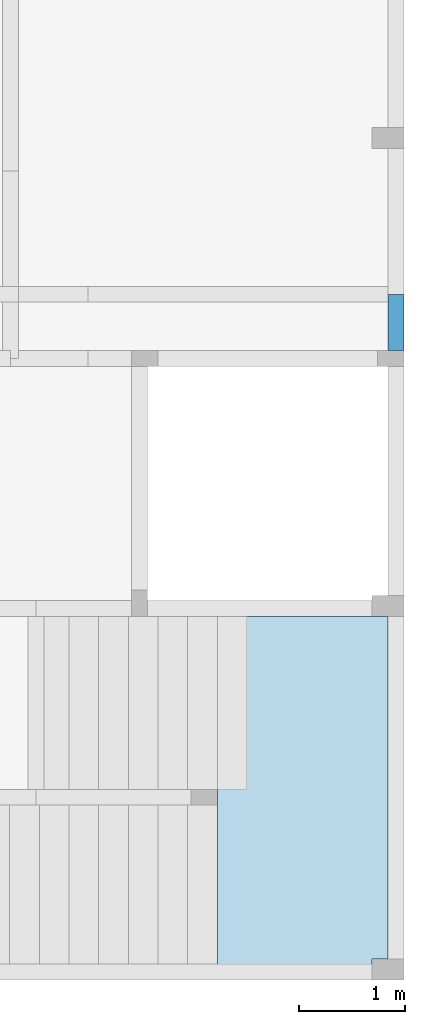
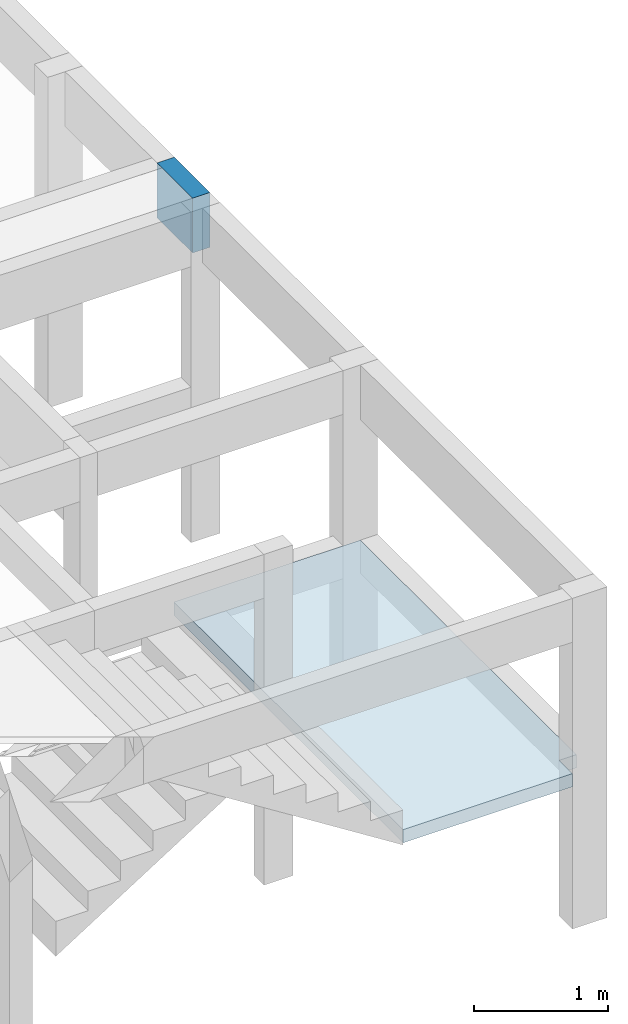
# One storey, part 7 of 21: 1 beam, 1 slab.
"""IFC4 building model written with IfcOpenShell, lengths in centimetres."""

import ifcopenshell
import ifcopenshell.guid

model = None  # the IFC model being written
_history = None  # IfcOwnerHistory: only IFC2X3 demands one
_inside = {}  # id of a spatial element -> (the spatial element, [elements in it])
_under = {}  # id of a project, library or spatial element -> (it, [spatial elements below it])
_declared = {}  # id of a project -> (the project, [libraries it declares])
_typed = {}  # id of a type object -> (the type object, [elements of that type])
_made_of = {}  # id of a material, layer set ... -> (it, [elements and type objects made of it])


def new_model(schema):
    """Start an empty IFC model of exactly this schema.

    Asked for "IFC4X3", IfcOpenShell would pick the latest addendum, in which some entities
    have other attributes; the version numbers below select the first issue.
    IFC2X3 requires an IfcOwnerHistory on every rooted entity: one is made here for all.
    """
    global model, _history
    if schema == "IFC4X3":
        model = ifcopenshell.file(schema_version=(4, 3, 0, 0))
    else:
        model = ifcopenshell.file(schema=schema)
    _inside.clear()
    _under.clear()
    _declared.clear()
    _typed.clear()
    _made_of.clear()
    _history = None
    if model.schema == "IFC2X3":
        org = make("IfcOrganization", Name="unknown")
        user = make(
            "IfcPersonAndOrganization",
            ThePerson=make("IfcPerson", FamilyName="unknown"),
            TheOrganization=org,
        )
        app = make(
            "IfcApplication",
            ApplicationDeveloper=org,
            Version="unknown",
            ApplicationFullName="unknown",
            ApplicationIdentifier="unknown",
        )
        _history = make(
            "IfcOwnerHistory",
            OwningUser=user,
            OwningApplication=app,
            ChangeAction="ADDED",
            CreationDate=0,
        )
    return model


def make(cls, **values):
    """One entity of the class cls with the attributes given. An attribute that is None is left unset."""
    return model.create_entity(
        cls, **{name: value for name, value in values.items() if value is not None}
    )


def rooted(cls, **values):
    """An entity with a GlobalId (a new one), such as an element, a storey or a relation."""
    return make(cls, GlobalId=ifcopenshell.guid.new(), OwnerHistory=_history, **values)


def si_unit(unit_type, name, prefix=None):
    """IfcSIUnit, for example si_unit("LENGTHUNIT", "METRE", prefix="MILLI")."""
    return make("IfcSIUnit", UnitType=unit_type, Prefix=prefix, Name=name)


def derived_unit(unit_type, elements):
    """IfcDerivedUnit: a product of units, each with its exponent."""
    return make(
        "IfcDerivedUnit",
        Elements=[
            make("IfcDerivedUnitElement", Unit=unit, Exponent=power)
            for unit, power in elements
        ],
        UnitType=unit_type,
    )


def assignment(units):
    """IfcUnitAssignment: the units of a project."""
    return None if units is None else make("IfcUnitAssignment", Units=units)


def point(xyz):
    """IfcCartesianPoint."""
    return None if xyz is None else make("IfcCartesianPoint", Coordinates=xyz)


def direction(xyz):
    """IfcDirection."""
    return None if xyz is None else make("IfcDirection", DirectionRatios=xyz)


def frame(location, z_axis=None, x_axis=None):
    """IfcAxis2Placement3D, a coordinate frame: its origin and axes. An axis left out is left unset."""
    return make(
        "IfcAxis2Placement3D",
        Location=point(location),
        Axis=direction(z_axis),
        RefDirection=direction(x_axis),
    )


def frame_2d(location, x_axis=None):
    """IfcAxis2Placement2D, a coordinate frame in the plane: its origin and x axis."""
    return make(
        "IfcAxis2Placement2D", Location=point(location), RefDirection=direction(x_axis)
    )


def origin_with_axes():
    """The frame at (0, 0, 0) with the z axis (0, 0, 1) and the x axis (1, 0, 0) written out."""
    return frame((0.0, 0.0, 0.0), z_axis=(0.0, 0.0, 1.0), x_axis=(1.0, 0.0, 0.0))


def origin_2d_with_axis():
    """The frame at (0, 0) in the plane with the x axis (1, 0) written out."""
    return frame_2d((0.0, 0.0), x_axis=(1.0, 0.0))


def place(relative_to, where):
    """IfcLocalPlacement: puts the frame where relative to a parent placement (None: the world)."""
    return make(
        "IfcLocalPlacement", PlacementRelTo=relative_to, RelativePlacement=where
    )


def context(
    kind, dimensions, precision=None, world=None, true_north=None, identifier=None
):
    """IfcGeometricRepresentationContext, for example the 3D "Model" context."""
    return make(
        "IfcGeometricRepresentationContext",
        ContextIdentifier=identifier,
        ContextType=kind,
        CoordinateSpaceDimension=dimensions,
        Precision=precision,
        WorldCoordinateSystem=world,
        TrueNorth=true_north,
    )


def project(units=None, contexts=None):
    """IfcProject with its units and contexts."""
    return rooted(
        "IfcProject",
        Name="project",
        RepresentationContexts=contexts,
        UnitsInContext=assignment(units),
    )


def spatial(cls, under=None, at=None, **own):
    """A site, building, storey or space (cls), placed at a placement, below another one or the project."""
    s = rooted(cls, ObjectPlacement=at, **own)
    if under is not None:
        _under.setdefault(under.id(), (under, []))[1].append(s)
    return s


def polyline(points):
    """IfcPolyline through the points."""
    return make("IfcPolyline", Points=[point(p) for p in points])


def profile(cls, at=None, kind="AREA", **sizes):
    """A parametric profile (cls). Its sizes go by their IFC names, for example OverallWidth=200.0."""
    return make(cls, ProfileType=kind, Position=at, **sizes)


def rectangle(**sizes):
    """IfcRectangleProfileDef."""
    return profile("IfcRectangleProfileDef", **sizes)


def outline(outer, holes=None, kind="AREA"):
    """IfcArbitraryClosedProfileDef: a profile drawn as a closed curve; with holes, ...WithVoids."""
    if holes is None:
        return make("IfcArbitraryClosedProfileDef", ProfileType=kind, OuterCurve=outer)
    return make(
        "IfcArbitraryProfileDefWithVoids",
        ProfileType=kind,
        OuterCurve=outer,
        InnerCurves=holes,
    )


def extrude(swept, where, along, depth):
    """IfcExtrudedAreaSolid: the profile swept, set in the frame where, extruded along a direction by depth."""
    return make(
        "IfcExtrudedAreaSolid",
        SweptArea=swept,
        Position=where,
        ExtrudedDirection=direction(along),
        Depth=depth,
    )


def shape(context_of_items, identifier, shape_type, items):
    """IfcShapeRepresentation: the items that make up one representation, for example the "Body"."""
    return make(
        "IfcShapeRepresentation",
        ContextOfItems=context_of_items,
        RepresentationIdentifier=identifier,
        RepresentationType=shape_type,
        Items=items,
    )


def material(Name=None, Category=None):
    """IfcMaterial."""
    return make("IfcMaterial", Name=Name, Category=Category)


def made_of(thing, what):
    """Note that an element or type object is made of a material, layer set ...; save() writes the relation."""
    if what is not None:
        _made_of.setdefault(what.id(), (what, []))[1].append(thing)
    return thing


def element(
    cls,
    number,
    at=None,
    inside=None,
    cuts=None,
    type_object=None,
    material=None,
    context=None,
    identifier="Body",
    shape_type=None,
    held_by="IfcProductDefinitionShape",
    body=None,
    shapes=None,
    **own,
):
    """One element of the class cls, such as IfcWall. Its Tag is "e" and its number.

    at: its placement. inside: the storey or other place that contains it. cuts: it is an
    opening in that element (IfcRelVoidsElement). A single representation is given by context,
    identifier, shape_type and body (its items); several are given by shapes. held_by: the class
    of the entity that holds the representations. save() writes the other relations.
    """
    e = rooted(cls, Tag="e%d" % number, ObjectPlacement=at, **own)
    if body is not None:
        shapes = [shape(context, identifier, shape_type, body)]
    if shapes is not None:
        e.Representation = make(held_by, Representations=shapes)
    if inside is not None:
        _inside.setdefault(inside.id(), (inside, []))[1].append(e)
    if cuts is not None:
        rooted(
            "IfcRelVoidsElement", RelatingBuildingElement=cuts, RelatedOpeningElement=e
        )
    if type_object is not None:
        _typed.setdefault(type_object.id(), (type_object, []))[1].append(e)
    return made_of(e, material)


def aggregate(whole, parts):
    """IfcRelAggregates: a whole, such as a stair, and the parts it consists of."""
    return rooted("IfcRelAggregates", RelatingObject=whole, RelatedObjects=parts)


def save(model, path):
    """Write the relations noted so far, then the file.

    IfcRelAggregates (storeys below a building ...), IfcRelContainedInSpatialStructure (elements
    in a storey), IfcRelDefinesByType, IfcRelAssociatesMaterial and IfcRelDeclares: one each for
    every whole, place, type object, material and project.
    """
    for whole, parts in _under.values():
        aggregate(whole, parts)
    for where, things in _inside.values():
        rooted(
            "IfcRelContainedInSpatialStructure",
            RelatedElements=things,
            RelatingStructure=where,
        )
    for kind, things in _typed.values():
        rooted("IfcRelDefinesByType", RelatedObjects=things, RelatingType=kind)
    for what, things in _made_of.values():
        rooted("IfcRelAssociatesMaterial", RelatedObjects=things, RelatingMaterial=what)
    for by, libraries in _declared.values():
        rooted("IfcRelDeclares", RelatingContext=by, RelatedDefinitions=libraries)
    model.write(path)


model = new_model("IFC4")

# Units and contexts
model_context = context("Model", 3, precision=1e-05, world=origin_with_axes(), identifier="Body")
ifc_project = project(units=[si_unit("LENGTHUNIT", "METRE", prefix="CENTI"), si_unit("VOLUMEUNIT", "CUBIC_METRE"), si_unit("AREAUNIT", "SQUARE_METRE"), si_unit("POWERUNIT", "WATT"), si_unit("LUMINOUSFLUXUNIT", "LUMEN"), si_unit("ELECTRICCURRENTUNIT", "AMPERE"), si_unit("PRESSUREUNIT", "PASCAL", prefix="KILO"), si_unit("MASSUNIT", "GRAM", prefix="KILO"), si_unit("PLANEANGLEUNIT", "RADIAN"), derived_unit("VOLUMETRICFLOWRATEUNIT", [(si_unit("LENGTHUNIT", "METRE"), 3), (si_unit("TIMEUNIT", "SECOND"), -1)])], contexts=[model_context])

# Site, building, storey
site_placement = place(None, origin_with_axes())
site = spatial("IfcSite", under=ifc_project, at=site_placement)
building_placement = place(site_placement, frame((0.0, 0.0, -295.0)))
building = spatial("IfcBuilding", under=site, at=building_placement)
placement_1 = place(building_placement, origin_with_axes())
placement_2 = place(placement_1, frame((0.0, 0.0, 101.0), z_axis=(0.0, 0.0, 1.0), x_axis=(1.0, 0.0, 0.0)))
placement_3 = place(placement_2, frame((0.0, 0.0, 204.0), z_axis=(0.0, 0.0, 1.0), x_axis=(1.0, 0.0, 0.0)))
placement_4 = place(placement_3, frame((0.0, 0.0, 292.0), z_axis=(0.0, 0.0, 1.0), x_axis=(1.0, 0.0, 0.0)))
storey_placement = place(placement_4, frame((0.0, 0.0, 302.0), z_axis=(0.0, 0.0, 1.0), x_axis=(1.0, 0.0, 0.0)))
storey = spatial("IfcBuildingStorey", under=building, at=storey_placement, Name="PAVTO 02", CompositionType="ELEMENT", Elevation=604.0)

# Beam
ifc_material = material(Name="Concreto")
beam_placement = place(storey_placement, frame((4009.25, -6558.68, 0.0), z_axis=(0.0, 0.0, 1.0), x_axis=(1.0, 0.0, 0.0)))
element("IfcBeam", 1, at=beam_placement, inside=storey, material=ifc_material, Name="V266", context=model_context, shape_type="SolidModel", body=[
    extrude(rectangle(XDim=15.0, YDim=50.0, at=origin_2d_with_axis()), frame((0.0, -26.63, -25.0), z_axis=(0.0, 1.0, 0.0), x_axis=(1.0, 0.0, 0.0)), (0.0, 0.0, 1.0), 53.26),
])

# Slab
slab_placement = place(storey_placement, frame((3921.175, -7007.8, -160.0), z_axis=(0.0, 0.0, 1.0), x_axis=(1.0, 0.0, 0.0)))
element("IfcSlab", 2, at=slab_placement, inside=storey, material=ifc_material, Name="PAT 1", PredefinedType="LANDING", context=model_context, shape_type="SolidModel", body=[
    extrude(outline(polyline([(65.58504558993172, -151.51), (80.58404558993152, -151.51), (80.5750455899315, 171.51), (-80.5839544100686, 171.51), (-80.5839544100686, -171.51), (65.58504558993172, -171.51), (65.58504558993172, -151.51), (65.58504558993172, -151.51)])), frame((-4.5589931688e-05, 0.0, -12.0), z_axis=(0.0, 0.0, 1.0), x_axis=(1.0, 0.0, 0.0)), (0.0, 0.0, 1.0), 12.0),
])

save(model, "model.ifc")
